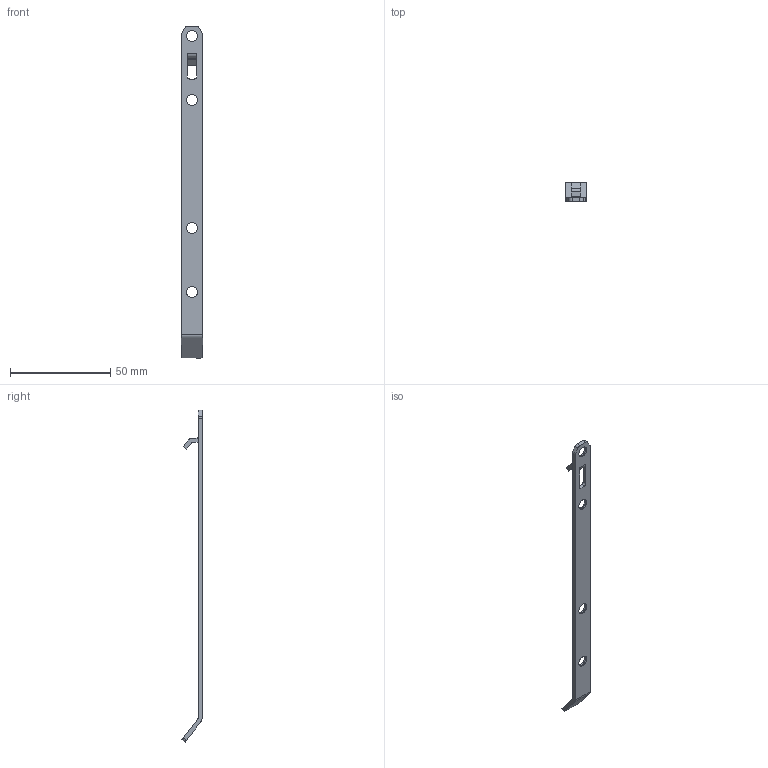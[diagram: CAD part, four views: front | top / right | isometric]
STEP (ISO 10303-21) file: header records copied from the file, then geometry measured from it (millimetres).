
FILE_DESCRIPTION (( 'STEP AP214' ), '1' );
FILE_NAME ('_Einhaengehaken_H186_Anschraubvariante.step', '2010-07-15T09:43:30', ( 'grass' ), ( '' ), 'SwSTEP 2.0', 'SolidWorks 2009', '' );
FILE_SCHEMA (( 'AUTOMOTIVE_DESIGN' ));
Length unit declared in the file: millimetre
Products named in the file (1): _Einhaengehaken_H186_Anschraubvariante
Bounding box: 10.5 x 10 x 165.93 mm (x, y, z)
Volume: 3241.8 mm3; surface area: 4220.1 mm2
Topology: 1 solids, 1 shells, 60 faces, 156 edges, 98 vertices
Faces by surface type: cylinder 30, plane 22, cone 8
Entity records: 1892 total; most frequent: DIRECTION 340, CARTESIAN_POINT 315, ORIENTED_EDGE 312, EDGE_CURVE 156, AXIS2_PLACEMENT_3D 123, VERTEX_POINT 98, LINE 94, VECTOR 94
